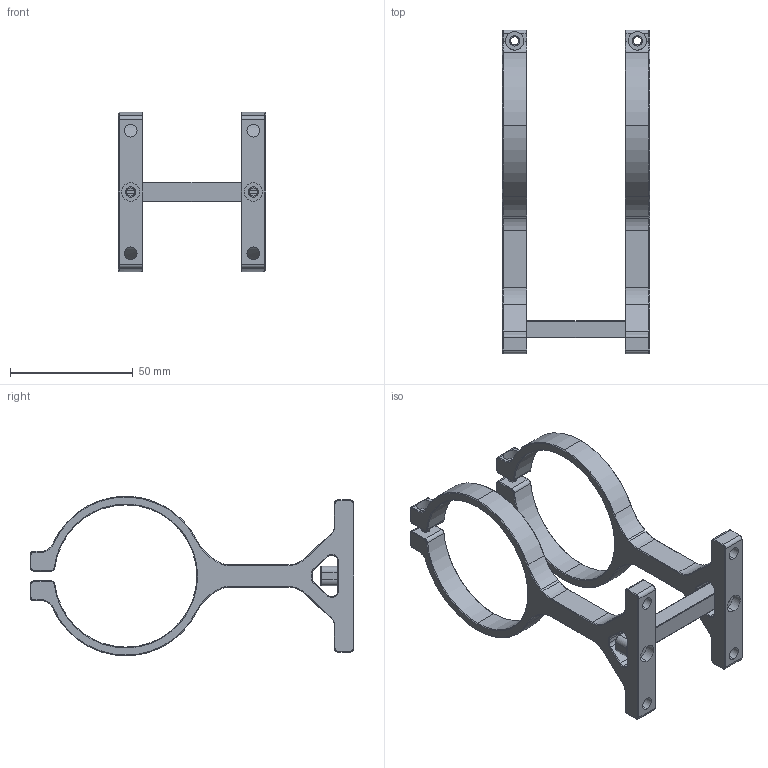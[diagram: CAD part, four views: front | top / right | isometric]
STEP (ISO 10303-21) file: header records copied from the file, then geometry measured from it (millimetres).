
FILE_DESCRIPTION (( 'STEP AP214' ), '1' );
FILE_NAME ('DW20,DW25假蚾盓殤.STEP', '2026-03-24T02:20:56', ( '' ), ( '' ), 'SwSTEP 2.0', 'SolidWorks 2022', '' );
FILE_SCHEMA (( 'AUTOMOTIVE_DESIGN' ));
Length unit declared in the file: millimetre
Products named in the file (3): DW25安装支架2^装配体3; DW20,DW25安装支架; DW25安装连杆^装配体3
Assembly tree (3 placements, depth 2):
  DW20,DW25安装支架
    DW25安装支架2^装配体3  x2
    DW25安装连杆^装配体3
Bounding box: 60 x 131.92 x 65 mm (x, y, z)
Volume: 38959.9 mm3; surface area: 22995.8 mm2
Topology: 3 solids, 3 shells, 380 faces, 902 edges, 528 vertices
Faces by surface type: plane 150, cone 132, cylinder 98
Entity records: 6181 total; most frequent: CARTESIAN_POINT 1221, DIRECTION 1085, ORIENTED_EDGE 970, EDGE_CURVE 485, AXIS2_PLACEMENT_3D 392, LINE 301, VECTOR 301, VERTEX_POINT 284
